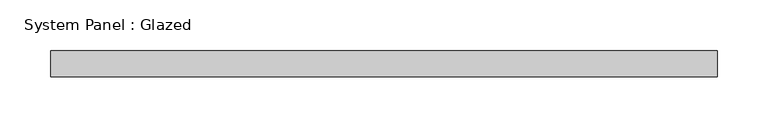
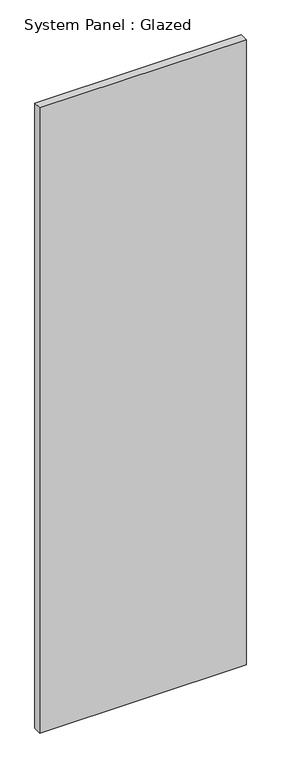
"""IFC4 building model written with IfcOpenShell, lengths in millimetres: plate geometry, System Panel : Glazed."""

import ifcopenshell
import ifcopenshell.guid

model = None  # the IFC model being written
_history = None  # IfcOwnerHistory: only IFC2X3 demands one
_inside = {}  # id of a spatial element -> (the spatial element, [elements in it])
_under = {}  # id of a project, library or spatial element -> (it, [spatial elements below it])
_declared = {}  # id of a project -> (the project, [libraries it declares])
_typed = {}  # id of a type object -> (the type object, [elements of that type])
_made_of = {}  # id of a material, layer set ... -> (it, [elements and type objects made of it])


def new_model(schema):
    """Start an empty IFC model of exactly this schema.

    Asked for "IFC4X3", IfcOpenShell would pick the latest addendum, in which some entities
    have other attributes; the version numbers below select the first issue.
    IFC2X3 requires an IfcOwnerHistory on every rooted entity: one is made here for all.
    """
    global model, _history
    if schema == "IFC4X3":
        model = ifcopenshell.file(schema_version=(4, 3, 0, 0))
    else:
        model = ifcopenshell.file(schema=schema)
    _inside.clear()
    _under.clear()
    _declared.clear()
    _typed.clear()
    _made_of.clear()
    _history = None
    if model.schema == "IFC2X3":
        org = make("IfcOrganization", Name="unknown")
        user = make(
            "IfcPersonAndOrganization",
            ThePerson=make("IfcPerson", FamilyName="unknown"),
            TheOrganization=org,
        )
        app = make(
            "IfcApplication",
            ApplicationDeveloper=org,
            Version="unknown",
            ApplicationFullName="unknown",
            ApplicationIdentifier="unknown",
        )
        _history = make(
            "IfcOwnerHistory",
            OwningUser=user,
            OwningApplication=app,
            ChangeAction="ADDED",
            CreationDate=0,
        )
    return model


def make(cls, **values):
    """One entity of the class cls with the attributes given. An attribute that is None is left unset."""
    return model.create_entity(
        cls, **{name: value for name, value in values.items() if value is not None}
    )


def rooted(cls, **values):
    """An entity with a GlobalId (a new one), such as an element, a storey or a relation."""
    return make(cls, GlobalId=ifcopenshell.guid.new(), OwnerHistory=_history, **values)


def si_unit(unit_type, name, prefix=None):
    """IfcSIUnit, for example si_unit("LENGTHUNIT", "METRE", prefix="MILLI")."""
    return make("IfcSIUnit", UnitType=unit_type, Prefix=prefix, Name=name)


def assignment(units):
    """IfcUnitAssignment: the units of a project."""
    return None if units is None else make("IfcUnitAssignment", Units=units)


def point(xyz):
    """IfcCartesianPoint."""
    return None if xyz is None else make("IfcCartesianPoint", Coordinates=xyz)


def direction(xyz):
    """IfcDirection."""
    return None if xyz is None else make("IfcDirection", DirectionRatios=xyz)


def frame(location, z_axis=None, x_axis=None):
    """IfcAxis2Placement3D, a coordinate frame: its origin and axes. An axis left out is left unset."""
    return make(
        "IfcAxis2Placement3D",
        Location=point(location),
        Axis=direction(z_axis),
        RefDirection=direction(x_axis),
    )


def origin():
    """The frame at (0, 0, 0) with its axes left unset."""
    return frame((0.0, 0.0, 0.0))


def origin_with_axes():
    """The frame at (0, 0, 0) with the z axis (0, 0, 1) and the x axis (1, 0, 0) written out."""
    return frame((0.0, 0.0, 0.0), z_axis=(0.0, 0.0, 1.0), x_axis=(1.0, 0.0, 0.0))


def place(relative_to, where):
    """IfcLocalPlacement: puts the frame where relative to a parent placement (None: the world)."""
    return make(
        "IfcLocalPlacement", PlacementRelTo=relative_to, RelativePlacement=where
    )


def context(
    kind, dimensions, precision=None, world=None, true_north=None, identifier=None
):
    """IfcGeometricRepresentationContext, for example the 3D "Model" context."""
    return make(
        "IfcGeometricRepresentationContext",
        ContextIdentifier=identifier,
        ContextType=kind,
        CoordinateSpaceDimension=dimensions,
        Precision=precision,
        WorldCoordinateSystem=world,
        TrueNorth=true_north,
    )


def project(units=None, contexts=None):
    """IfcProject with its units and contexts."""
    return rooted(
        "IfcProject",
        Name="project",
        RepresentationContexts=contexts,
        UnitsInContext=assignment(units),
    )


def spatial(cls, under=None, at=None, **own):
    """A site, building, storey or space (cls), placed at a placement, below another one or the project."""
    s = rooted(cls, ObjectPlacement=at, **own)
    if under is not None:
        _under.setdefault(under.id(), (under, []))[1].append(s)
    return s


def polyline(points):
    """IfcPolyline through the points."""
    return make("IfcPolyline", Points=[point(p) for p in points])


def outline(outer, holes=None, kind="AREA"):
    """IfcArbitraryClosedProfileDef: a profile drawn as a closed curve; with holes, ...WithVoids."""
    if holes is None:
        return make("IfcArbitraryClosedProfileDef", ProfileType=kind, OuterCurve=outer)
    return make(
        "IfcArbitraryProfileDefWithVoids",
        ProfileType=kind,
        OuterCurve=outer,
        InnerCurves=holes,
    )


def extrude(swept, where, along, depth):
    """IfcExtrudedAreaSolid: the profile swept, set in the frame where, extruded along a direction by depth."""
    return make(
        "IfcExtrudedAreaSolid",
        SweptArea=swept,
        Position=where,
        ExtrudedDirection=direction(along),
        Depth=depth,
    )


def shape(context_of_items, identifier, shape_type, items):
    """IfcShapeRepresentation: the items that make up one representation, for example the "Body"."""
    return make(
        "IfcShapeRepresentation",
        ContextOfItems=context_of_items,
        RepresentationIdentifier=identifier,
        RepresentationType=shape_type,
        Items=items,
    )


def source(mapping_origin, context_of_items, identifier, shape_type, items):
    """IfcRepresentationMap: a shape defined once, which mapped items show again and again."""
    return make(
        "IfcRepresentationMap",
        MappingOrigin=mapping_origin,
        MappedRepresentation=shape(context_of_items, identifier, shape_type, items),
    )


def transform(
    local_origin,
    x_axis=None,
    y_axis=None,
    z_axis=None,
    scale=None,
    scale2=None,
    scale3=None,
    uniform=True,
):
    """IfcCartesianTransformationOperator3D, or its non-uniform kind. x_axis, y_axis, z_axis: its Axis1, 2, 3."""
    if uniform:
        return make(
            "IfcCartesianTransformationOperator3D",
            Axis1=direction(x_axis),
            Axis2=direction(y_axis),
            LocalOrigin=point(local_origin),
            Scale=scale,
            Axis3=direction(z_axis),
        )
    return make(
        "IfcCartesianTransformationOperator3DnonUniform",
        Axis1=direction(x_axis),
        Axis2=direction(y_axis),
        LocalOrigin=point(local_origin),
        Scale=scale,
        Axis3=direction(z_axis),
        Scale2=scale2,
        Scale3=scale3,
    )


def mapped(mapping_source, mapping_target):
    """IfcMappedItem: shows the shape of a source again, moved by a transform."""
    return make(
        "IfcMappedItem", MappingSource=mapping_source, MappingTarget=mapping_target
    )


def made_of(thing, what):
    """Note that an element or type object is made of a material, layer set ...; save() writes the relation."""
    if what is not None:
        _made_of.setdefault(what.id(), (what, []))[1].append(thing)
    return thing


def element(
    cls,
    number,
    at=None,
    inside=None,
    cuts=None,
    type_object=None,
    material=None,
    context=None,
    identifier="Body",
    shape_type=None,
    held_by="IfcProductDefinitionShape",
    body=None,
    shapes=None,
    **own,
):
    """One element of the class cls, such as IfcWall. Its Tag is "e" and its number.

    at: its placement. inside: the storey or other place that contains it. cuts: it is an
    opening in that element (IfcRelVoidsElement). A single representation is given by context,
    identifier, shape_type and body (its items); several are given by shapes. held_by: the class
    of the entity that holds the representations. save() writes the other relations.
    """
    e = rooted(cls, Tag="e%d" % number, ObjectPlacement=at, **own)
    if body is not None:
        shapes = [shape(context, identifier, shape_type, body)]
    if shapes is not None:
        e.Representation = make(held_by, Representations=shapes)
    if inside is not None:
        _inside.setdefault(inside.id(), (inside, []))[1].append(e)
    if cuts is not None:
        rooted(
            "IfcRelVoidsElement", RelatingBuildingElement=cuts, RelatedOpeningElement=e
        )
    if type_object is not None:
        _typed.setdefault(type_object.id(), (type_object, []))[1].append(e)
    return made_of(e, material)


def aggregate(whole, parts):
    """IfcRelAggregates: a whole, such as a stair, and the parts it consists of."""
    return rooted("IfcRelAggregates", RelatingObject=whole, RelatedObjects=parts)


def save(model, path):
    """Write the relations noted so far, then the file.

    IfcRelAggregates (storeys below a building ...), IfcRelContainedInSpatialStructure (elements
    in a storey), IfcRelDefinesByType, IfcRelAssociatesMaterial and IfcRelDeclares: one each for
    every whole, place, type object, material and project.
    """
    for whole, parts in _under.values():
        aggregate(whole, parts)
    for where, things in _inside.values():
        rooted(
            "IfcRelContainedInSpatialStructure",
            RelatedElements=things,
            RelatingStructure=where,
        )
    for kind, things in _typed.values():
        rooted("IfcRelDefinesByType", RelatedObjects=things, RelatingType=kind)
    for what, things in _made_of.values():
        rooted("IfcRelAssociatesMaterial", RelatedObjects=things, RelatingMaterial=what)
    for by, libraries in _declared.values():
        rooted("IfcRelDeclares", RelatingContext=by, RelatedDefinitions=libraries)
    model.write(path)


def system_panel_glazed_61d13e3b(model_context):
    return source(origin(), model_context, "Body", "SweptSolid", [
        extrude(outline(polyline([(327.3201314, 19.05), (-327.3201314, 19.05), (-327.3201314, 44.45), (327.3201314, 44.45), (327.3201314, 19.05)])), origin_with_axes(), (0.0, 0.0, 1.0), 2095.5),
    ])


if __name__ == "__main__":
    model = new_model("IFC4")
    model_context = context("Model", 3, world=origin())
    ifc_project = project(units=[si_unit("LENGTHUNIT", "METRE", prefix="MILLI")], contexts=[model_context])
    site = spatial("IfcSite", under=ifc_project)
    building = spatial("IfcBuilding", under=site)
    placement = place(None, origin())
    system_panel_glazed_shape = system_panel_glazed_61d13e3b(model_context)
    element("IfcPlate", 1, ObjectType="System Panel : Glazed", at=placement, inside=building, context=model_context, shape_type="MappedRepresentation", body=[
        mapped(system_panel_glazed_shape, transform((0.0, 0.0, 0.0), x_axis=(1.0, 0.0, 0.0), y_axis=(0.0, 1.0, 0.0), z_axis=(0.0, 0.0, 1.0))),
    ])
    save(model, "model.ifc")
